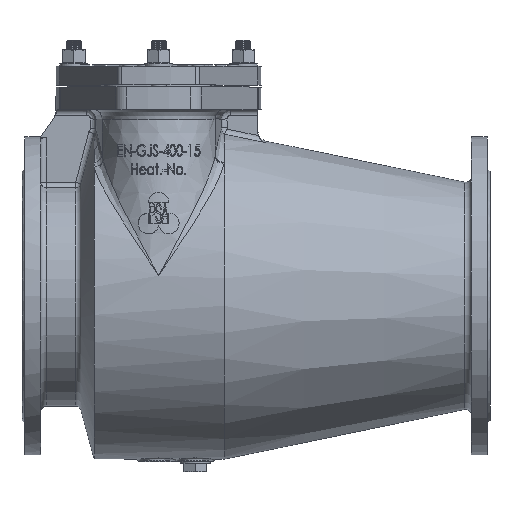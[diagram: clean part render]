
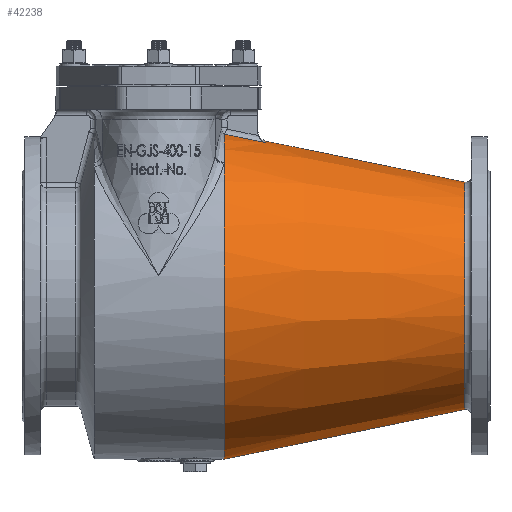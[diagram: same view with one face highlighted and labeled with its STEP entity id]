
A CAD part, top view. The second image highlights one B-rep face of the part: STEP entity #42238.
In plain terms, the highlighted conical face has half-angle 11.664 degrees and reference radius 120 mm.
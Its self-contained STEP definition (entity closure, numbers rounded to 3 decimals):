
#4507=CIRCLE('',#43978,121.489);
#4508=CIRCLE('',#43983,174.5);
#4513=CIRCLE('',#43988,174.5);
#4529=CIRCLE('',#44077,174.5);
#4531=CIRCLE('',#44147,165.421);
#4532=CIRCLE('',#44148,174.5);
#4533=CIRCLE('',#44149,174.5);
#10949=ORIENTED_EDGE('',*,*,#16196,.T.);
#10950=ORIENTED_EDGE('',*,*,#16346,.T.);
#10951=ORIENTED_EDGE('',*,*,#16825,.T.);
#10952=ORIENTED_EDGE('',*,*,#16352,.T.);
#10953=ORIENTED_EDGE('',*,*,#16349,.T.);
#10954=ORIENTED_EDGE('',*,*,#16358,.F.);
#10955=ORIENTED_EDGE('',*,*,#16590,.F.);
#10956=ORIENTED_EDGE('',*,*,#16826,.F.);
#10957=ORIENTED_EDGE('',*,*,#16827,.F.);
#10958=ORIENTED_EDGE('',*,*,#16335,.F.);
#10959=ORIENTED_EDGE('',*,*,#16341,.T.);
#16196=EDGE_CURVE('',#19742,#19742,#4507,.T.);
#16335=EDGE_CURVE('',#19877,#19878,#4508,.T.);
#16341=EDGE_CURVE('',#19877,#19882,#21947,.T.);
#16346=EDGE_CURVE('',#19882,#19885,#21952,.T.);
#16349=EDGE_CURVE('',#19889,#19888,#21954,.T.);
#16352=EDGE_CURVE('',#19891,#19889,#21957,.T.);
#16358=EDGE_CURVE('',#19895,#19888,#4513,.T.);
#16590=EDGE_CURVE('',#20019,#19895,#4529,.T.);
#16825=EDGE_CURVE('',#19885,#19891,#4531,.F.);
#16826=EDGE_CURVE('',#20137,#20019,#4532,.T.);
#16827=EDGE_CURVE('',#19878,#20137,#4533,.T.);
#19742=VERTEX_POINT('',#71844);
#19877=VERTEX_POINT('',#73047);
#19878=VERTEX_POINT('',#73049);
#19882=VERTEX_POINT('',#73099);
#19885=VERTEX_POINT('',#73134);
#19888=VERTEX_POINT('',#73161);
#19889=VERTEX_POINT('',#73166);
#19891=VERTEX_POINT('',#73193);
#19895=VERTEX_POINT('',#73257);
#20019=VERTEX_POINT('',#75446);
#20137=VERTEX_POINT('',#77924);
#21947=B_SPLINE_CURVE_WITH_KNOTS('',3,(#73095,#73096,#73097,#73098),
 .UNSPECIFIED.,.F.,.F.,(4,4),(0.,0.),.UNSPECIFIED.);
#21952=B_SPLINE_CURVE_WITH_KNOTS('',3,(#73135,#73136,#73137,#73138),
 .UNSPECIFIED.,.F.,.F.,(4,4),(0.,0.045),
 .UNSPECIFIED.);
#21954=B_SPLINE_CURVE_WITH_KNOTS('',3,(#73162,#73163,#73164,#73165),
 .UNSPECIFIED.,.F.,.F.,(4,4),(0.,0.),
 .UNSPECIFIED.);
#21957=B_SPLINE_CURVE_WITH_KNOTS('',3,(#73189,#73190,#73191,#73192),
 .UNSPECIFIED.,.F.,.F.,(4,4),(-0.008,0.037),
 .UNSPECIFIED.);
#24135=EDGE_LOOP('',(#10949));
#24136=EDGE_LOOP('',(#10950,#10951,#10952,#10953,#10954,#10955,#10956,#10957,
#10958,#10959));
#26598=FACE_BOUND('',#24135,.T.);
#26599=FACE_BOUND('',#24136,.T.);
#27731=CONICAL_SURFACE('',#44146,120.,0.204);
#42238=ADVANCED_FACE('',(#26598,#26599),#27731,.T.);
#43978=AXIS2_PLACEMENT_3D('',#71843,#48187,#48188);
#43983=AXIS2_PLACEMENT_3D('',#73048,#48197,#48198);
#43988=AXIS2_PLACEMENT_3D('',#73256,#48207,#48208);
#44077=AXIS2_PLACEMENT_3D('',#75447,#48492,#48493);
#44146=AXIS2_PLACEMENT_3D('',#77921,#48744,#48745);
#44147=AXIS2_PLACEMENT_3D('',#77922,#48746,#48747);
#44148=AXIS2_PLACEMENT_3D('',#77923,#48748,#48749);
#44149=AXIS2_PLACEMENT_3D('',#77925,#48750,#48751);
#48187=DIRECTION('',(-1.,0.,0.));
#48188=DIRECTION('',(0.,-1.,0.));
#48197=DIRECTION('',(-1.,0.,0.));
#48198=DIRECTION('',(0.,-1.,0.));
#48207=DIRECTION('',(-1.,0.,0.));
#48208=DIRECTION('',(0.,-1.,0.));
#48492=DIRECTION('',(-1.,0.,0.));
#48493=DIRECTION('',(0.,-1.,0.));
#48744=DIRECTION('',(-1.,0.,0.));
#48745=DIRECTION('',(0.,-1.,0.));
#48746=DIRECTION('',(-1.,0.,0.));
#48747=DIRECTION('',(0.,-1.,0.));
#48748=DIRECTION('',(-1.,0.,0.));
#48749=DIRECTION('',(0.,-1.,0.));
#48750=DIRECTION('',(-1.,0.,0.));
#48751=DIRECTION('',(0.,-1.,0.));
#71843=CARTESIAN_POINT('',(222.787,0.,0.));
#71844=CARTESIAN_POINT('',(222.787,-121.489,0.));
#73047=CARTESIAN_POINT('',(-34.,172.643,-25.388));
#73048=CARTESIAN_POINT('',(-34.,0.,0.));
#73049=CARTESIAN_POINT('',(-34.,142.275,-101.035));
#73095=CARTESIAN_POINT('',(-34.,172.643,-25.388));
#73096=CARTESIAN_POINT('',(-34.,172.655,-25.31));
#73097=CARTESIAN_POINT('',(-33.997,172.666,-25.231));
#73098=CARTESIAN_POINT('',(-33.992,172.676,-25.153));
#73099=CARTESIAN_POINT('',(-33.992,172.676,-25.153));
#73134=CARTESIAN_POINT('',(9.978,163.505,-25.108));
#73135=CARTESIAN_POINT('',(-33.992,172.676,-25.153));
#73136=CARTESIAN_POINT('',(-19.335,169.62,-25.139));
#73137=CARTESIAN_POINT('',(-4.678,166.563,-25.124));
#73138=CARTESIAN_POINT('',(9.978,163.505,-25.108));
#73161=CARTESIAN_POINT('',(-34.,172.643,25.388));
#73162=CARTESIAN_POINT('',(-33.992,172.676,25.153));
#73163=CARTESIAN_POINT('',(-33.997,172.666,25.231));
#73164=CARTESIAN_POINT('',(-34.,172.655,25.31));
#73165=CARTESIAN_POINT('',(-34.,172.643,25.388));
#73166=CARTESIAN_POINT('',(-33.992,172.676,25.153));
#73189=CARTESIAN_POINT('',(9.978,163.505,25.108));
#73190=CARTESIAN_POINT('',(-4.678,166.563,25.124));
#73191=CARTESIAN_POINT('',(-19.335,169.62,25.139));
#73192=CARTESIAN_POINT('',(-33.992,172.676,25.153));
#73193=CARTESIAN_POINT('',(9.978,163.505,25.108));
#73256=CARTESIAN_POINT('',(-34.,0.,0.));
#73257=CARTESIAN_POINT('',(-34.,142.275,101.035));
#75446=CARTESIAN_POINT('',(-34.,141.23,102.49));
#75447=CARTESIAN_POINT('',(-34.,0.,0.));
#77921=CARTESIAN_POINT('',(230.,0.,0.));
#77922=CARTESIAN_POINT('',(9.978,0.,0.));
#77923=CARTESIAN_POINT('',(-34.,0.,0.));
#77924=CARTESIAN_POINT('',(-34.,141.23,-102.49));
#77925=CARTESIAN_POINT('',(-34.,0.,0.));
